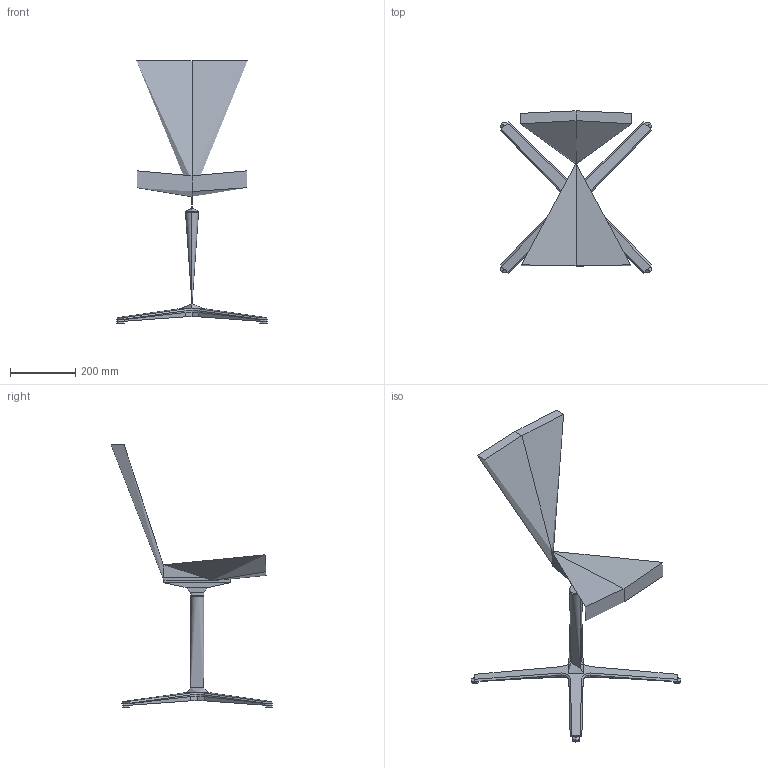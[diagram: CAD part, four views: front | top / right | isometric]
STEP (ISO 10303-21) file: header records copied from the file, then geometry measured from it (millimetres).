
FILE_DESCRIPTION(/* description */ (''),/* implementation_level */ '2;1');
FILE_NAME(/* name */ 'FLA252~1',/* time_stamp */ '2015-11-12T16:07:28+01:00',/* author */ (''),/* organization */ (''),/* preprocessor_version */ 'ST-DEVELOPER v15',/* originating_system */ '',/* authorisation */ '');
FILE_SCHEMA (('CONFIG_CONTROL_DESIGN'));
Length unit declared in the file: millimetre
Products named in the file (1): Document
Bounding box: 464.24 x 497.12 x 807.04 mm (x, y, z)
Volume: 16589570.7 mm3; surface area: 1038582.5 mm2
Topology: 2 solids, 8 shells, 122 faces, 300 edges, 172 vertices
Faces by surface type: bspline 96, plane 26
Entity records: 12836 total; most frequent: CARTESIAN_POINT 11128, ORIENTED_EDGE 552, EDGE_CURVE 283, VERTEX_POINT 170, ADVANCED_FACE 122, FACE_OUTER_BOUND 122, EDGE_LOOP 122, B_SPLINE_CURVE_WITH_KNOTS 120
